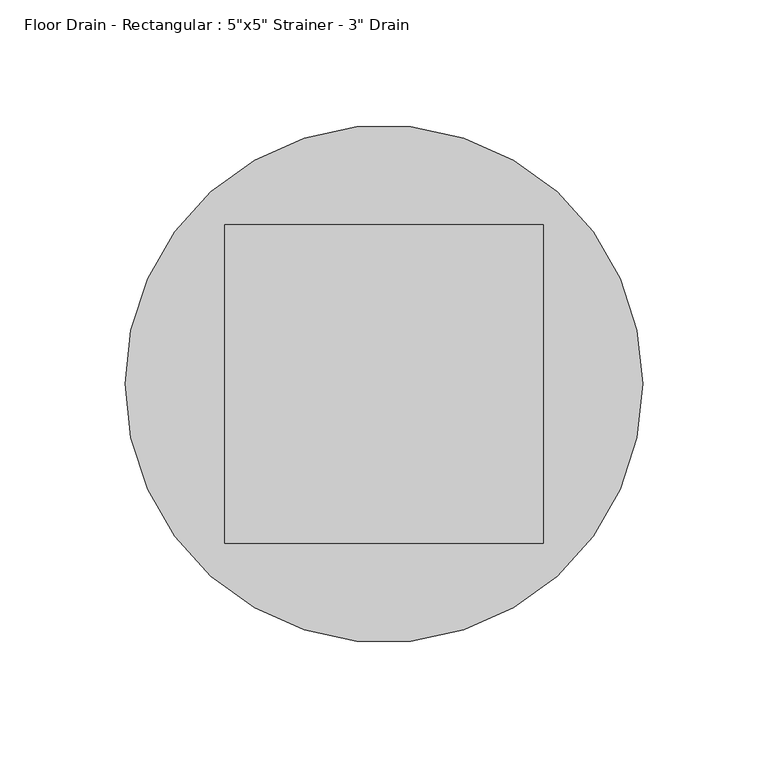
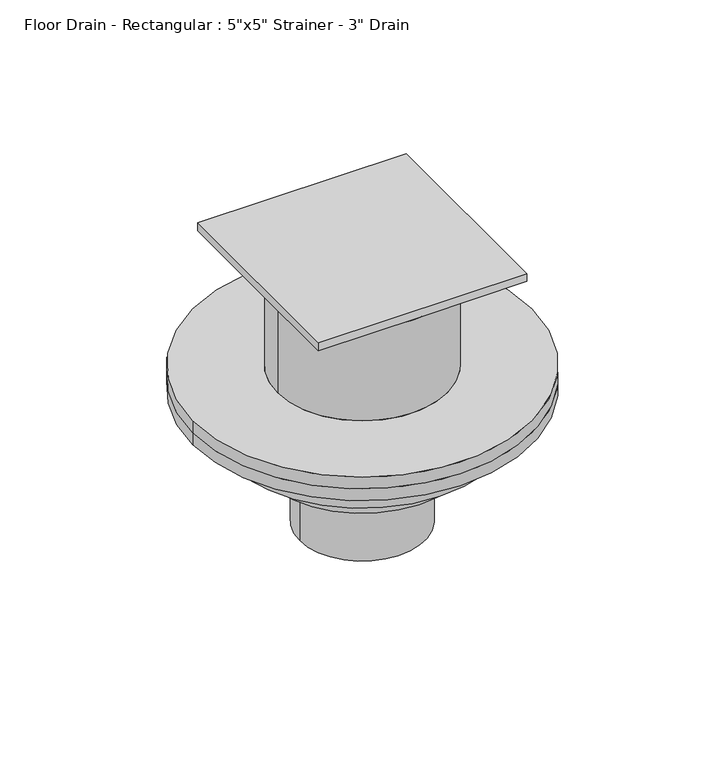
"""IFC4 building model written with IfcOpenShell, lengths in millimetres: flow terminal geometry."""

from ifc_helpers import new_model, si_unit, frame, origin, place, context, project, spatial, polyline, circle_curve, source, transform, mapped, element, save
from ifc_brep_helpers import plane_surface, cylinder_surface, revolved_surface, advanced_brep


def flow_terminal_d4e15b29(model_context):
    return source(origin(), model_context, "Body", "AdvancedBrep", [
        advanced_brep(
        [(103.1875, 0.0, -74.93), (-103.1875, 0.0, -74.93), (-51.59375, 0.0, -74.93), (51.59375, 0.0, -74.93), (103.1875, 0.0, -82.55), (-103.1875, 0.0, -82.55), (51.59375, 0.0, -15.24), (-51.59375, 0.0, -15.24), (-63.5, 0.0, -5.08), (0.0, 63.5, -5.08), (63.5, 0.0, -5.08), (0.0, -63.5, -5.08), (63.5, 63.5, 0.0), (-63.5, 63.5, 0.0), (-63.5, -63.5, 0.0), (63.5, -63.5, 0.0), (-63.5, -63.5, -5.08), (-63.5, 63.5, -5.08), (63.5, 63.5, -5.08), (63.5, -63.5, -5.08)],
        [
            (0, 1, circle_curve(frame((0.0, 0.0, -74.93), z_axis=(0.0, 0.0, 1.0), x_axis=(-1.0, 0.0, 0.0)), 103.1875)),
            (1, 0, circle_curve(frame((0.0, 0.0, -74.93), z_axis=(0.0, 0.0, 1.0), x_axis=(-1.0, 0.0, 0.0)), 103.1875)),
            (2, 3, circle_curve(frame((0.0, 0.0, -74.93), z_axis=(0.0, 0.0, -1.0), x_axis=(-1.0, 0.0, 0.0)), 51.59375)),
            (3, 2, circle_curve(frame((0.0, 0.0, -74.93), z_axis=(0.0, 0.0, -1.0), x_axis=(-1.0, 0.0, 0.0)), 51.59375)),
            (4, 5, circle_curve(frame((0.0, 0.0, -82.55), z_axis=(0.0, 0.0, -1.0), x_axis=(-1.0, 0.0, 0.0)), 103.1875)),
            (5, 4, circle_curve(frame((0.0, 0.0, -82.55), z_axis=(0.0, 0.0, -1.0), x_axis=(-1.0, 0.0, 0.0)), 103.1875)),
            (0, 4),
            (5, 1),
            (6, 3),
            (2, 7),
            (7, 6, circle_curve(frame((0.0, 0.0, -15.24), z_axis=(0.0, 0.0, -1.0), x_axis=(-1.0, 0.0, 0.0)), 51.59375)),
            (6, 7, circle_curve(frame((0.0, 0.0, -15.24), z_axis=(0.0, 0.0, -1.0), x_axis=(-1.0, 0.0, 0.0)), 51.59375)),
            (7, 8),
            (8, 9, circle_curve(frame((0.0, 0.0, -5.08), z_axis=(0.0, 0.0, -1.0), x_axis=(-1.0, 0.0, 0.0)), 63.5)),
            (9, 10, circle_curve(frame((0.0, 0.0, -5.08), z_axis=(0.0, 0.0, -1.0), x_axis=(-1.0, 0.0, 0.0)), 63.5)),
            (10, 6),
            (10, 11, circle_curve(frame((0.0, 0.0, -5.08), z_axis=(0.0, 0.0, -1.0), x_axis=(-1.0, 0.0, 0.0)), 63.5)),
            (11, 8, circle_curve(frame((0.0, 0.0, -5.08), z_axis=(0.0, 0.0, -1.0), x_axis=(-1.0, 0.0, 0.0)), 63.5)),
            (12, 13),
            (13, 14),
            (14, 15),
            (15, 12),
            (16, 8),
            (11, 16),
            (8, 17),
            (17, 9),
            (18, 10),
            (9, 18),
            (10, 19),
            (19, 11),
            (12, 18),
            (17, 13),
            (16, 14),
            (19, 15),
        ],
        [
            plane_surface(frame((-103.1875, 0.0, -74.93), z_axis=(0.0, 0.0, 1.0), x_axis=(0.0, -1.0, 0.0))),
            plane_surface(frame((-103.1875, 0.0, -82.55), z_axis=(0.0, 0.0, -1.0), x_axis=(0.0, 1.0, 0.0))),
            cylinder_surface(frame((0.0, 0.0, -82.55), z_axis=(0.0, 0.0, 1.0), x_axis=(-1.0, 0.0, 0.0)), 103.1875),
            cylinder_surface(frame((0.0, 0.0, -74.93), z_axis=(0.0, 0.0, 1.0), x_axis=(-1.0, 0.0, 0.0)), 51.59375),
            revolved_surface(polyline([(-63.5, 0.0, -5.08), (-51.59375, 0.0, -15.24)]), (0.0, 0.0, -5.08), (0.0, 0.0, -1.0)),
            plane_surface(frame((-63.5, 63.5, 0.0), z_axis=(0.0, 0.0, 1.0), x_axis=(-1.0, 0.0, 0.0))),
            plane_surface(frame((-63.5, 63.5, -5.08), z_axis=(0.0, 0.0, -1.0), x_axis=(1.0, 0.0, 0.0))),
            plane_surface(frame((63.5, 63.5, 0.0), z_axis=(0.0, 1.0, 0.0), x_axis=(0.0, 0.0, -1.0))),
            plane_surface(frame((-63.5, 63.5, 0.0), z_axis=(-1.0, 0.0, 0.0), x_axis=(0.0, 0.0, -1.0))),
            plane_surface(frame((-63.5, -63.5, 0.0), z_axis=(0.0, -1.0, 0.0), x_axis=(0.0, 0.0, -1.0))),
            plane_surface(frame((63.5, -63.5, 0.0), z_axis=(1.0, 0.0, 0.0), x_axis=(0.0, 0.0, -1.0))),
        ],
        [
            (0, [[1, 2], [3, 4]]),
            (1, [[5, 6]]),
            (2, [[-1, 7, -6, 8]]),
            (2, [[-2, -8, -5, -7]]),
            (3, [[9, -3, 10, 11]]),
            (3, [[-9, 12, -10, -4]]),
            (4, [[13, 14, 15, 16, -11]]),
            (4, [[-13, -12, -16, 17, 18]]),
            (5, [[19, 20, 21, 22]]),
            (6, [[23, -18, 24]]),
            (6, [[25, 26, -14]]),
            (6, [[27, -15, 28]]),
            (6, [[29, 30, -17]]),
            (7, [[-19, 31, -28, -26, 32]]),
            (8, [[-20, -32, -25, -23, 33]]),
            (9, [[-21, -33, -24, -30, 34]]),
            (10, [[-22, -34, -29, -27, -31]]),
        ],
    ),
        advanced_brep(
        [(103.1875, 0.0, -82.55), (-103.1875, 0.0, -82.55), (103.1875, 0.0, -90.17), (-103.1875, 0.0, -90.17), (81.4916667, 0.0, -90.17), (-81.4916667, 0.0, -90.17), (81.4916667, 0.0, -110.1725), (-81.4916667, 0.0, -110.1725), (59.7958333, 0.0, -110.1725), (-59.7958333, 0.0, -110.1725), (38.1, 0.0, -174.625), (-38.1, 0.0, -174.625), (-38.1, 0.0, -128.5875), (38.1, 0.0, -128.5875), (59.7958333, 0.0, -128.5875), (-59.7958333, 0.0, -128.5875)],
        [
            (0, 1, circle_curve(frame((0.0, 0.0, -82.55), z_axis=(0.0, 0.0, 1.0), x_axis=(-1.0, 0.0, 0.0)), 103.1875)),
            (1, 0, circle_curve(frame((0.0, 0.0, -82.55), z_axis=(0.0, 0.0, 1.0), x_axis=(-1.0, 0.0, 0.0)), 103.1875)),
            (2, 3, circle_curve(frame((0.0, 0.0, -90.17), z_axis=(0.0, 0.0, -1.0), x_axis=(-1.0, 0.0, 0.0)), 103.1875)),
            (3, 2, circle_curve(frame((0.0, 0.0, -90.17), z_axis=(0.0, 0.0, -1.0), x_axis=(-1.0, 0.0, 0.0)), 103.1875)),
            (4, 5, circle_curve(frame((0.0, 0.0, -90.17), z_axis=(0.0, 0.0, 1.0), x_axis=(-1.0, 0.0, 0.0)), 81.4916667)),
            (5, 4, circle_curve(frame((0.0, 0.0, -90.17), z_axis=(0.0, 0.0, 1.0), x_axis=(-1.0, 0.0, 0.0)), 81.4916667)),
            (0, 2),
            (3, 1),
            (6, 7, circle_curve(frame((0.0, 0.0, -110.1725), z_axis=(0.0, 0.0, -1.0), x_axis=(-1.0, 0.0, 0.0)), 81.4916667)),
            (7, 6, circle_curve(frame((0.0, 0.0, -110.1725), z_axis=(0.0, 0.0, -1.0), x_axis=(-1.0, 0.0, 0.0)), 81.4916667)),
            (8, 9, circle_curve(frame((0.0, 0.0, -110.1725), z_axis=(0.0, 0.0, 1.0), x_axis=(-1.0, 0.0, 0.0)), 59.7958333)),
            (9, 8, circle_curve(frame((0.0, 0.0, -110.1725), z_axis=(0.0, 0.0, 1.0), x_axis=(-1.0, 0.0, 0.0)), 59.7958333)),
            (7, 5),
            (4, 6),
            (10, 11, circle_curve(frame((0.0, 0.0, -174.625), z_axis=(0.0, 0.0, -1.0), x_axis=(-1.0, 0.0, 0.0)), 38.1)),
            (11, 10, circle_curve(frame((0.0, 0.0, -174.625), z_axis=(0.0, 0.0, -1.0), x_axis=(-1.0, 0.0, 0.0)), 38.1)),
            (11, 12),
            (12, 13, circle_curve(frame((0.0, 0.0, -128.5875), z_axis=(0.0, 0.0, -1.0), x_axis=(-1.0, 0.0, 0.0)), 38.1)),
            (13, 10),
            (13, 12, circle_curve(frame((0.0, 0.0, -128.5875), z_axis=(0.0, 0.0, -1.0), x_axis=(-1.0, 0.0, 0.0)), 38.1)),
            (14, 15, circle_curve(frame((0.0, 0.0, -128.5875), z_axis=(0.0, 0.0, -1.0), x_axis=(-1.0, 0.0, 0.0)), 59.7958333)),
            (15, 14, circle_curve(frame((0.0, 0.0, -128.5875), z_axis=(0.0, 0.0, -1.0), x_axis=(-1.0, 0.0, 0.0)), 59.7958333)),
            (15, 9),
            (8, 14),
        ],
        [
            plane_surface(frame((-103.1875, 0.0, -82.55), z_axis=(0.0, 0.0, 1.0), x_axis=(0.0, -1.0, 0.0))),
            plane_surface(frame((-103.1875, 0.0, -90.17), z_axis=(0.0, 0.0, -1.0), x_axis=(0.0, 1.0, 0.0))),
            cylinder_surface(frame((0.0, 0.0, -90.17), z_axis=(0.0, 0.0, 1.0), x_axis=(-1.0, 0.0, 0.0)), 103.1875),
            plane_surface(frame((-81.4916667, 0.0, -110.1725), z_axis=(0.0, 0.0, -1.0), x_axis=(0.0, 1.0, 0.0))),
            cylinder_surface(frame((0.0, 0.0, -110.1725), z_axis=(0.0, 0.0, 1.0), x_axis=(-1.0, 0.0, 0.0)), 81.4916667),
            plane_surface(frame((-38.1, 0.0, -174.625), z_axis=(0.0, 0.0, -1.0), x_axis=(0.0, 1.0, 0.0))),
            cylinder_surface(frame((0.0, 0.0, -174.625), z_axis=(0.0, 0.0, 1.0), x_axis=(-1.0, 0.0, 0.0)), 38.1),
            plane_surface(frame((-59.7958333, 0.0, -128.5875), z_axis=(0.0, 0.0, -1.0), x_axis=(0.0, 1.0, 0.0))),
            cylinder_surface(frame((0.0, 0.0, -128.5875), z_axis=(0.0, 0.0, 1.0), x_axis=(-1.0, 0.0, 0.0)), 59.7958333),
        ],
        [
            (0, [[1, 2]]),
            (1, [[3, 4], [5, 6]]),
            (2, [[-1, 7, -4, 8]]),
            (2, [[-2, -8, -3, -7]]),
            (3, [[9, 10], [11, 12]]),
            (4, [[-10, 13, -5, 14]]),
            (4, [[-9, -14, -6, -13]]),
            (5, [[15, 16]]),
            (6, [[-16, 17, 18, 19]]),
            (6, [[-15, -19, 20, -17]]),
            (7, [[21, 22], [-18, -20]]),
            (8, [[-22, 23, -11, 24]]),
            (8, [[-21, -24, -12, -23]]),
        ],
    ),
    ])


if __name__ == "__main__":
    model = new_model("IFC4")
    model_context = context("Model", 3, world=origin())
    ifc_project = project(units=[si_unit("LENGTHUNIT", "METRE", prefix="MILLI")], contexts=[model_context])
    site = spatial("IfcSite", under=ifc_project)
    building = spatial("IfcBuilding", under=site)
    placement = place(None, origin())
    flow_terminal_shape = flow_terminal_d4e15b29(model_context)
    element("IfcFlowTerminal", 1, ObjectType="Floor Drain - Rectangular : 5\"x5\" Strainer - 3\" Drain", at=placement, inside=building, context=model_context, shape_type="MappedRepresentation", body=[
        mapped(flow_terminal_shape, transform((0.0, 0.0, 0.0), x_axis=(1.0, 0.0, 0.0), y_axis=(0.0, 1.0, 0.0), z_axis=(0.0, 0.0, 1.0))),
    ])
    save(model, "model.ifc")
